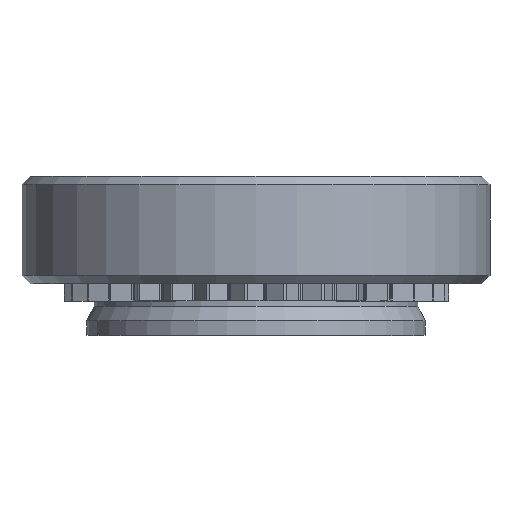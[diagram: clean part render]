
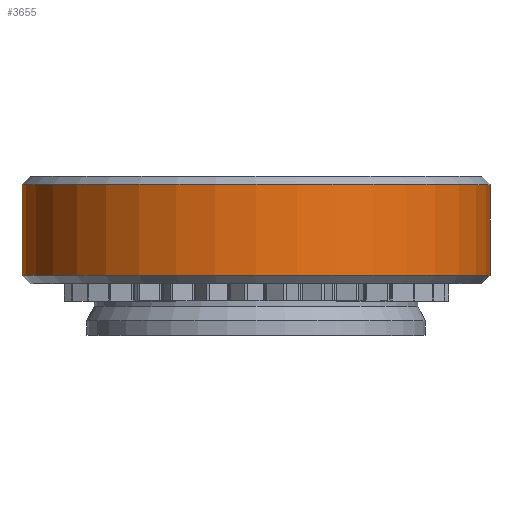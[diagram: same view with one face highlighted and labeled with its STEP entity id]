
A CAD part, top view. The second image highlights one B-rep face of the part: STEP entity #3655.
In plain terms, the highlighted cylindrical face has radius 4.375 mm (diameter 8.75 mm), a full revolution.
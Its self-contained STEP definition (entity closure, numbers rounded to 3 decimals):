
#85=CYLINDRICAL_SURFACE('',#3880,4.375);
#214=FACE_OUTER_BOUND('',#413,.T.);
#413=EDGE_LOOP('',(#2490,#2491,#2492,#2493,#2494,#2495));
#616=LINE('',#5594,#935);
#935=VECTOR('',#4351,4.375);
#1254=CIRCLE('',#3878,4.375);
#1255=CIRCLE('',#3879,4.375);
#1256=CIRCLE('',#3881,4.375);
#1257=CIRCLE('',#3882,4.375);
#1517=VERTEX_POINT('',#5587);
#1518=VERTEX_POINT('',#5589);
#1519=VERTEX_POINT('',#5593);
#1520=VERTEX_POINT('',#5595);
#1905=EDGE_CURVE('',#1517,#1518,#1254,.T.);
#1906=EDGE_CURVE('',#1518,#1517,#1255,.T.);
#1907=EDGE_CURVE('',#1518,#1519,#616,.T.);
#1908=EDGE_CURVE('',#1520,#1519,#1256,.T.);
#1909=EDGE_CURVE('',#1519,#1520,#1257,.T.);
#2490=ORIENTED_EDGE('',*,*,#1905,.F.);
#2491=ORIENTED_EDGE('',*,*,#1906,.F.);
#2492=ORIENTED_EDGE('',*,*,#1907,.T.);
#2493=ORIENTED_EDGE('',*,*,#1908,.F.);
#2494=ORIENTED_EDGE('',*,*,#1909,.F.);
#2495=ORIENTED_EDGE('',*,*,#1907,.F.);
#3655=ADVANCED_FACE('',(#214),#85,.T.);
#3878=AXIS2_PLACEMENT_3D('',#5590,#4345,#4346);
#3879=AXIS2_PLACEMENT_3D('',#5591,#4347,#4348);
#3880=AXIS2_PLACEMENT_3D('',#5592,#4349,#4350);
#3881=AXIS2_PLACEMENT_3D('',#5596,#4352,#4353);
#3882=AXIS2_PLACEMENT_3D('',#5597,#4354,#4355);
#4345=DIRECTION('center_axis',(0.,1.,0.));
#4346=DIRECTION('ref_axis',(1.,0.,0.));
#4347=DIRECTION('center_axis',(0.,1.,0.));
#4348=DIRECTION('ref_axis',(1.,0.,0.));
#4349=DIRECTION('center_axis',(0.,1.,0.));
#4350=DIRECTION('ref_axis',(-1.,0.,0.));
#4351=DIRECTION('',(0.,-1.,0.));
#4352=DIRECTION('center_axis',(0.,-1.,0.));
#4353=DIRECTION('ref_axis',(1.,0.,0.));
#4354=DIRECTION('center_axis',(0.,-1.,0.));
#4355=DIRECTION('ref_axis',(1.,0.,0.));
#5587=CARTESIAN_POINT('',(-4.375,2.82,0.));
#5589=CARTESIAN_POINT('',(4.375,2.82,0.));
#5590=CARTESIAN_POINT('Origin',(0.,2.82,0.));
#5591=CARTESIAN_POINT('Origin',(0.,2.82,0.));
#5592=CARTESIAN_POINT('Origin',(0.,1.97,0.));
#5593=CARTESIAN_POINT('',(4.375,1.12,0.));
#5594=CARTESIAN_POINT('',(4.375,1.97,0.));
#5595=CARTESIAN_POINT('',(-4.375,1.12,0.));
#5596=CARTESIAN_POINT('Origin',(0.,1.12,0.));
#5597=CARTESIAN_POINT('Origin',(0.,1.12,0.));
